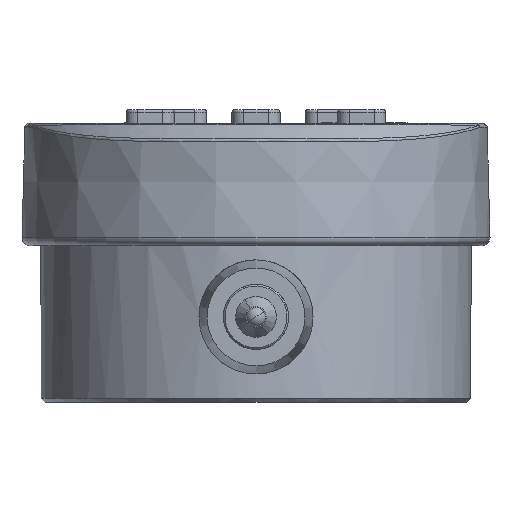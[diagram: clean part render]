
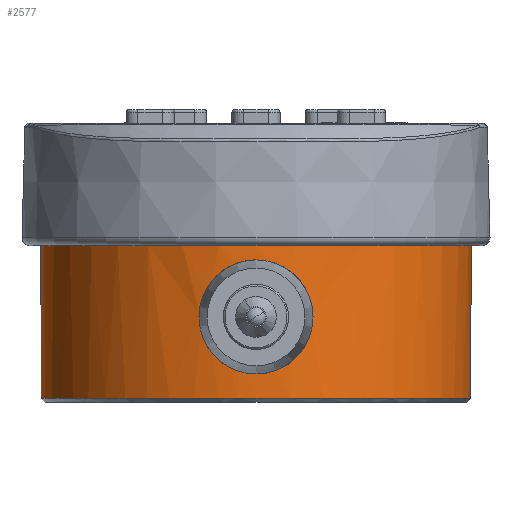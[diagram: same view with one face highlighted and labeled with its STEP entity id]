
A CAD part, front view. The second image highlights one B-rep face of the part: STEP entity #2577.
In plain terms, the highlighted cylindrical face has radius 26.4 mm (diameter 52.8 mm), a full revolution.
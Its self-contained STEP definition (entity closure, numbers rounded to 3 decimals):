
#2577=ADVANCED_FACE('NONE',(#3086,#3087,#3088,#3089),#2959,.T.);
#2959=CYLINDRICAL_SURFACE('',#11023,26.4);
#3086=FACE_BOUND('',#3239,.T.);
#3087=FACE_BOUND('',#3240,.T.);
#3088=FACE_BOUND('',#3241,.T.);
#3089=FACE_BOUND('',#3242,.T.);
#3239=EDGE_LOOP('',(#3752,#3753));
#3240=EDGE_LOOP('',(#3754,#3755));
#3241=EDGE_LOOP('',(#3756));
#3242=EDGE_LOOP('',(#3757,#3758));
#3752=ORIENTED_EDGE('',*,*,#7751,.T.);
#3753=ORIENTED_EDGE('',*,*,#7752,.T.);
#3754=ORIENTED_EDGE('',*,*,#7753,.T.);
#3755=ORIENTED_EDGE('',*,*,#7754,.T.);
#3756=ORIENTED_EDGE('',*,*,#7742,.T.);
#3757=ORIENTED_EDGE('',*,*,#7746,.T.);
#3758=ORIENTED_EDGE('',*,*,#7748,.T.);
#6296=VERTEX_POINT('',#13661);
#6298=VERTEX_POINT('',#13666);
#6300=VERTEX_POINT('',#13670);
#6303=VERTEX_POINT('',#13709);
#6304=VERTEX_POINT('',#13710);
#6305=VERTEX_POINT('',#13739);
#6306=VERTEX_POINT('',#13740);
#7742=EDGE_CURVE('',#6296,#6296,#10049,.T.);
#7746=EDGE_CURVE('',#6298,#6300,#9465,.T.);
#7748=EDGE_CURVE('',#6300,#6298,#9467,.T.);
#7751=EDGE_CURVE('',#6303,#6304,#10052,.T.);
#7752=EDGE_CURVE('',#6304,#6303,#10053,.T.);
#7753=EDGE_CURVE('',#6305,#6306,#10054,.T.);
#7754=EDGE_CURVE('',#6306,#6305,#10055,.T.);
#9465=CIRCLE('',#11017,26.4);
#9467=CIRCLE('',#11020,26.4);
#10049=B_SPLINE_CURVE_WITH_KNOTS('',3,(#13643,#13644,#13645,#13646,#13647,
#13648,#13649,#13650,#13651,#13652,#13653,#13654,#13655,#13656,#13657,#13658,
#13659,#13660),.UNSPECIFIED.,.T.,.F.,(2,2,2,2,2,2,2,2,2,2,2),(-0.125,0.,
0.125,0.25,0.375,0.5,0.625,0.75,0.875,1.,1.125),.UNSPECIFIED.);
#10052=B_SPLINE_CURVE_WITH_KNOTS('',3,(#13699,#13700,#13701,#13702,#13703,
#13704,#13705,#13706,#13707,#13708),.UNSPECIFIED.,.F.,.F.,(4,2,2,2,4),(0.,
0.25,0.5,0.75,1.),.UNSPECIFIED.);
#10053=B_SPLINE_CURVE_WITH_KNOTS('',3,(#13711,#13712,#13713,#13714,#13715,
#13716,#13717,#13718,#13719,#13720),.UNSPECIFIED.,.F.,.F.,(4,2,2,2,4),(0.,
0.25,0.5,0.75,1.),.UNSPECIFIED.);
#10054=B_SPLINE_CURVE_WITH_KNOTS('',3,(#13721,#13722,#13723,#13724,#13725,
#13726,#13727,#13728,#13729,#13730,#13731,#13732,#13733,#13734,#13735,#13736,
#13737,#13738),.UNSPECIFIED.,.F.,.F.,(4,2,2,2,2,2,2,2,4),(0.,0.125,0.25,
0.375,0.5,0.625,0.75,0.875,1.),.UNSPECIFIED.);
#10055=B_SPLINE_CURVE_WITH_KNOTS('',3,(#13741,#13742,#13743,#13744,#13745,
#13746,#13747,#13748,#13749,#13750,#13751,#13752,#13753,#13754,#13755,#13756,
#13757,#13758),.UNSPECIFIED.,.F.,.F.,(4,2,2,2,2,2,2,2,4),(0.,0.125,0.25,
0.375,0.5,0.625,0.75,0.875,1.),.UNSPECIFIED.);
#11017=AXIS2_PLACEMENT_3D('',#13671,#11776,#11777);
#11020=AXIS2_PLACEMENT_3D('',#13674,#11782,#11783);
#11023=AXIS2_PLACEMENT_3D('',#13759,#11788,#11789);
#11776=DIRECTION('',(0.,0.,-1.));
#11777=DIRECTION('',(-1.,0.,0.));
#11782=DIRECTION('',(0.,0.,-1.));
#11783=DIRECTION('',(-1.,0.,0.));
#11788=DIRECTION('',(0.,0.,1.));
#11789=DIRECTION('',(0.,1.,0.));
#13643=CARTESIAN_POINT('',(-314.486,-17.505,-21.652));
#13644=CARTESIAN_POINT('',(-318.203,-17.505,-21.653));
#13645=CARTESIAN_POINT('',(-320.01,-17.282,-20.887));
#13646=CARTESIAN_POINT('',(-322.58,-16.792,-18.317));
#13647=CARTESIAN_POINT('',(-323.343,-16.561,-16.494));
#13648=CARTESIAN_POINT('',(-323.347,-16.56,-12.824));
#13649=CARTESIAN_POINT('',(-322.592,-16.789,-11.001));
#13650=CARTESIAN_POINT('',(-320.003,-17.284,-8.409));
#13651=CARTESIAN_POINT('',(-318.204,-17.505,-7.653));
#13652=CARTESIAN_POINT('',(-314.487,-17.505,-7.652));
#13653=CARTESIAN_POINT('',(-312.68,-17.282,-8.418));
#13654=CARTESIAN_POINT('',(-310.11,-16.792,-10.988));
#13655=CARTESIAN_POINT('',(-309.347,-16.561,-12.811));
#13656=CARTESIAN_POINT('',(-309.343,-16.56,-16.481));
#13657=CARTESIAN_POINT('',(-310.098,-16.789,-18.304));
#13658=CARTESIAN_POINT('',(-312.687,-17.284,-20.896));
#13659=CARTESIAN_POINT('',(-314.486,-17.505,-21.652));
#13660=CARTESIAN_POINT('',(-318.203,-17.505,-21.653));
#13661=CARTESIAN_POINT('',(-316.345,-17.505,-21.653));
#13666=CARTESIAN_POINT('',(-289.945,8.895,-5.852));
#13670=CARTESIAN_POINT('',(-342.745,8.895,-5.852));
#13671=CARTESIAN_POINT('',(-316.345,8.895,-5.852));
#13674=CARTESIAN_POINT('',(-316.345,8.895,-5.852));
#13699=CARTESIAN_POINT('',(-324.345,34.053,-14.653));
#13700=CARTESIAN_POINT('',(-324.345,34.053,-16.78));
#13701=CARTESIAN_POINT('',(-323.468,34.36,-18.843));
#13702=CARTESIAN_POINT('',(-320.536,35.003,-21.775));
#13703=CARTESIAN_POINT('',(-318.453,35.294,-22.65));
#13704=CARTESIAN_POINT('',(-314.252,35.295,-22.655));
#13705=CARTESIAN_POINT('',(-312.166,35.006,-21.787));
#13706=CARTESIAN_POINT('',(-309.213,34.358,-18.835));
#13707=CARTESIAN_POINT('',(-308.345,34.053,-16.78));
#13708=CARTESIAN_POINT('',(-308.345,34.053,-14.653));
#13709=CARTESIAN_POINT('',(-324.345,34.053,-14.653));
#13710=CARTESIAN_POINT('',(-308.345,34.053,-14.653));
#13711=CARTESIAN_POINT('',(-308.345,34.053,-14.653));
#13712=CARTESIAN_POINT('',(-308.345,34.053,-12.525));
#13713=CARTESIAN_POINT('',(-309.222,34.36,-10.462));
#13714=CARTESIAN_POINT('',(-312.153,35.003,-7.53));
#13715=CARTESIAN_POINT('',(-314.236,35.294,-6.655));
#13716=CARTESIAN_POINT('',(-318.437,35.295,-6.65));
#13717=CARTESIAN_POINT('',(-320.523,35.006,-7.518));
#13718=CARTESIAN_POINT('',(-323.476,34.358,-10.47));
#13719=CARTESIAN_POINT('',(-324.345,34.053,-12.525));
#13720=CARTESIAN_POINT('',(-324.345,34.053,-14.653));
#13721=CARTESIAN_POINT('',(-316.345,35.295,-24.651));
#13722=CARTESIAN_POINT('',(-319.8,35.295,-24.651));
#13723=CARTESIAN_POINT('',(-323.255,34.608,-24.651));
#13724=CARTESIAN_POINT('',(-329.64,31.963,-24.651));
#13725=CARTESIAN_POINT('',(-332.569,30.006,-24.651));
#13726=CARTESIAN_POINT('',(-337.456,25.119,-24.651));
#13727=CARTESIAN_POINT('',(-339.413,22.19,-24.651));
#13728=CARTESIAN_POINT('',(-342.058,15.805,-24.651));
#13729=CARTESIAN_POINT('',(-342.745,12.351,-24.651));
#13730=CARTESIAN_POINT('',(-342.745,5.439,-24.651));
#13731=CARTESIAN_POINT('',(-342.058,1.985,-24.651));
#13732=CARTESIAN_POINT('',(-339.413,-4.401,-24.651));
#13733=CARTESIAN_POINT('',(-337.456,-7.329,-24.651));
#13734=CARTESIAN_POINT('',(-332.569,-12.216,-24.651));
#13735=CARTESIAN_POINT('',(-329.64,-14.173,-24.651));
#13736=CARTESIAN_POINT('',(-323.255,-16.818,-24.651));
#13737=CARTESIAN_POINT('',(-319.8,-17.505,-24.651));
#13738=CARTESIAN_POINT('',(-316.345,-17.505,-24.651));
#13739=CARTESIAN_POINT('',(-316.345,35.295,-24.651));
#13740=CARTESIAN_POINT('',(-316.345,-17.505,-24.651));
#13741=CARTESIAN_POINT('',(-316.345,-17.505,-24.651));
#13742=CARTESIAN_POINT('',(-312.889,-17.505,-24.651));
#13743=CARTESIAN_POINT('',(-309.435,-16.818,-24.651));
#13744=CARTESIAN_POINT('',(-303.049,-14.173,-24.651));
#13745=CARTESIAN_POINT('',(-300.121,-12.216,-24.651));
#13746=CARTESIAN_POINT('',(-295.234,-7.329,-24.651));
#13747=CARTESIAN_POINT('',(-293.277,-4.401,-24.651));
#13748=CARTESIAN_POINT('',(-290.632,1.985,-24.651));
#13749=CARTESIAN_POINT('',(-289.945,5.439,-24.651));
#13750=CARTESIAN_POINT('',(-289.945,12.351,-24.651));
#13751=CARTESIAN_POINT('',(-290.632,15.805,-24.651));
#13752=CARTESIAN_POINT('',(-293.277,22.19,-24.651));
#13753=CARTESIAN_POINT('',(-295.234,25.119,-24.651));
#13754=CARTESIAN_POINT('',(-300.121,30.006,-24.651));
#13755=CARTESIAN_POINT('',(-303.049,31.963,-24.651));
#13756=CARTESIAN_POINT('',(-309.435,34.608,-24.651));
#13757=CARTESIAN_POINT('',(-312.889,35.295,-24.651));
#13758=CARTESIAN_POINT('',(-316.345,35.295,-24.651));
#13759=CARTESIAN_POINT('',(-316.345,8.895,-25.153));
